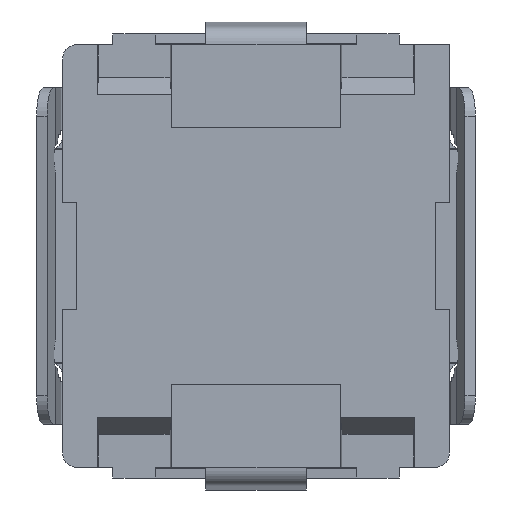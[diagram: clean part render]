
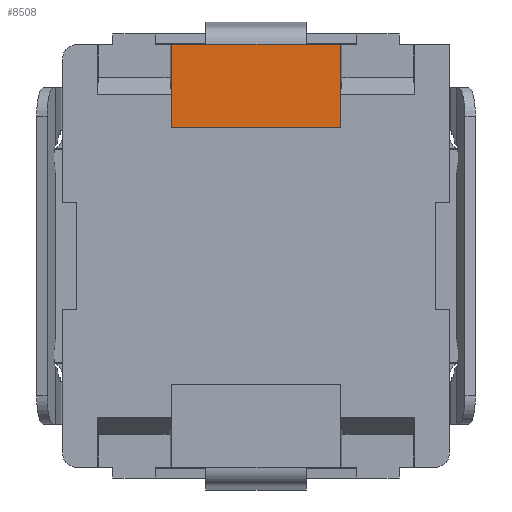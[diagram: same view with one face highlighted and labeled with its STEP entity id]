
A CAD part, front view. The second image highlights one B-rep face of the part: STEP entity #8508.
In plain terms, the highlighted planar face has unit normal (0, -1, 0).
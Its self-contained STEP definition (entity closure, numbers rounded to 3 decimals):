
#171 = AXIS2_PLACEMENT_3D ( 'NONE', #3939, #2547, #15122 ) ;
#451 = CARTESIAN_POINT ( 'NONE',  ( -0.7, 0.04, 1.93 ) ) ;
#761 = ORIENTED_EDGE ( 'NONE', *, *, #14885, .T. ) ;
#783 = DIRECTION ( 'NONE',  ( -1., 0., 0. ) ) ;
#787 = VECTOR ( 'NONE', #12499, 1000. ) ;
#790 = VECTOR ( 'NONE', #8552, 1000. ) ;
#874 = FACE_OUTER_BOUND ( 'NONE', #11216, .T. ) ;
#1019 = EDGE_CURVE ( 'NONE', #8538, #11699, #14668, .T. ) ;
#1038 = CARTESIAN_POINT ( 'NONE',  ( -5., 0.04, 2.95 ) ) ;
#1092 = DIRECTION ( 'NONE',  ( -1., 0., 0. ) ) ;
#1206 = LINE ( 'NONE', #16842, #790 ) ;
#1212 = DIRECTION ( 'NONE',  ( 0., 0., -1. ) ) ;
#1648 = LINE ( 'NONE', #14078, #15943 ) ;
#2039 = DIRECTION ( 'NONE',  ( 0., 0., -1. ) ) ;
#2073 = VERTEX_POINT ( 'NONE', #15034 ) ;
#2107 = CARTESIAN_POINT ( 'NONE',  ( -1.183, 0.04, 1.93 ) ) ;
#2547 = DIRECTION ( 'NONE',  ( 0., -1., 0. ) ) ;
#2553 = ORIENTED_EDGE ( 'NONE', *, *, #1019, .T. ) ;
#2585 = CARTESIAN_POINT ( 'NONE',  ( -1.183, 0.04, 2.95 ) ) ;
#2665 = CARTESIAN_POINT ( 'NONE',  ( -0.7, 0.04, 2.958 ) ) ;
#3001 = DIRECTION ( 'NONE',  ( 0., 0., 1. ) ) ;
#3127 = EDGE_CURVE ( 'NONE', #12924, #5524, #14680, .T. ) ;
#3185 = VERTEX_POINT ( 'NONE', #2585 ) ;
#3856 = ORIENTED_EDGE ( 'NONE', *, *, #7504, .T. ) ;
#3939 = CARTESIAN_POINT ( 'NONE',  ( -1., 0.04, 1.93 ) ) ;
#4106 = EDGE_CURVE ( 'NONE', #11699, #3185, #8016, .T. ) ;
#4135 = ORIENTED_EDGE ( 'NONE', *, *, #3127, .F. ) ;
#4714 = CARTESIAN_POINT ( 'NONE',  ( 1.183, 0.04, 2.277 ) ) ;
#4735 = ORIENTED_EDGE ( 'NONE', *, *, #15970, .T. ) ;
#5238 = CARTESIAN_POINT ( 'NONE',  ( -0.7, 0.04, 2.95 ) ) ;
#5281 = VERTEX_POINT ( 'NONE', #14218 ) ;
#5524 = VERTEX_POINT ( 'NONE', #14359 ) ;
#5896 = LINE ( 'NONE', #16820, #17357 ) ;
#7342 = VECTOR ( 'NONE', #7468, 1000. ) ;
#7468 = DIRECTION ( 'NONE',  ( 0., 0., -1. ) ) ;
#7504 = EDGE_CURVE ( 'NONE', #5281, #5524, #5896, .T. ) ;
#8016 = LINE ( 'NONE', #1038, #13636 ) ;
#8508 = ADVANCED_FACE ( 'NONE', ( #874 ), #9102, .T. ) ;
#8538 = VERTEX_POINT ( 'NONE', #2665 ) ;
#8552 = DIRECTION ( 'NONE',  ( 0., 0., 1. ) ) ;
#9102 = PLANE ( 'NONE',  #171 ) ;
#9270 = VECTOR ( 'NONE', #17281, 1000. ) ;
#9489 = VECTOR ( 'NONE', #1212, 1000. ) ;
#9654 = CARTESIAN_POINT ( 'NONE',  ( 0.7, 0.04, 1.93 ) ) ;
#9690 = ORIENTED_EDGE ( 'NONE', *, *, #13490, .T. ) ;
#9694 = CARTESIAN_POINT ( 'NONE',  ( 0.7, 0.04, 2.95 ) ) ;
#9925 = LINE ( 'NONE', #11812, #9270 ) ;
#10117 = CARTESIAN_POINT ( 'NONE',  ( 0.7, 0.04, 2.958 ) ) ;
#11154 = VERTEX_POINT ( 'NONE', #9694 ) ;
#11216 = EDGE_LOOP ( 'NONE', ( #12427, #761, #3856, #4135, #13959, #4735, #14537, #9690, #2553, #13718 ) ) ;
#11699 = VERTEX_POINT ( 'NONE', #5238 ) ;
#11812 = CARTESIAN_POINT ( 'NONE',  ( -1., 0.04, 2.958 ) ) ;
#11821 = EDGE_CURVE ( 'NONE', #11154, #16587, #17235, .T. ) ;
#11842 = CARTESIAN_POINT ( 'NONE',  ( -1.183, 0.04, 2.277 ) ) ;
#11884 = EDGE_CURVE ( 'NONE', #15455, #3185, #1648, .T. ) ;
#12427 = ORIENTED_EDGE ( 'NONE', *, *, #11884, .F. ) ;
#12499 = DIRECTION ( 'NONE',  ( 0., 0., 1. ) ) ;
#12924 = VERTEX_POINT ( 'NONE', #4714 ) ;
#13226 = CARTESIAN_POINT ( 'NONE',  ( -5., 0.04, 2.95 ) ) ;
#13465 = CARTESIAN_POINT ( 'NONE',  ( 1.183, 0.04, 3.188 ) ) ;
#13490 = EDGE_CURVE ( 'NONE', #16587, #8538, #9925, .T. ) ;
#13636 = VECTOR ( 'NONE', #1092, 1000. ) ;
#13718 = ORIENTED_EDGE ( 'NONE', *, *, #4106, .T. ) ;
#13725 = LINE ( 'NONE', #2107, #14358 ) ;
#13959 = ORIENTED_EDGE ( 'NONE', *, *, #17283, .T. ) ;
#14078 = CARTESIAN_POINT ( 'NONE',  ( -1.183, 0.04, 0. ) ) ;
#14218 = CARTESIAN_POINT ( 'NONE',  ( -1.183, 0.04, 1.8 ) ) ;
#14358 = VECTOR ( 'NONE', #2039, 1000. ) ;
#14359 = CARTESIAN_POINT ( 'NONE',  ( 1.183, 0.04, 1.8 ) ) ;
#14504 = VECTOR ( 'NONE', #783, 1000. ) ;
#14537 = ORIENTED_EDGE ( 'NONE', *, *, #11821, .T. ) ;
#14668 = LINE ( 'NONE', #451, #7342 ) ;
#14680 = LINE ( 'NONE', #13465, #9489 ) ;
#14721 = LINE ( 'NONE', #13226, #14504 ) ;
#14885 = EDGE_CURVE ( 'NONE', #15455, #5281, #13725, .T. ) ;
#15034 = CARTESIAN_POINT ( 'NONE',  ( 1.183, 0.04, 2.95 ) ) ;
#15122 = DIRECTION ( 'NONE',  ( 0., 0., -1. ) ) ;
#15357 = DIRECTION ( 'NONE',  ( 1., 0., 0. ) ) ;
#15455 = VERTEX_POINT ( 'NONE', #11842 ) ;
#15943 = VECTOR ( 'NONE', #3001, 1000. ) ;
#15970 = EDGE_CURVE ( 'NONE', #2073, #11154, #14721, .T. ) ;
#16587 = VERTEX_POINT ( 'NONE', #10117 ) ;
#16820 = CARTESIAN_POINT ( 'NONE',  ( 1.181, 0.04, 1.8 ) ) ;
#16842 = CARTESIAN_POINT ( 'NONE',  ( 1.183, 0.04, 1.93 ) ) ;
#17235 = LINE ( 'NONE', #9654, #787 ) ;
#17281 = DIRECTION ( 'NONE',  ( -1., 0., 0. ) ) ;
#17283 = EDGE_CURVE ( 'NONE', #12924, #2073, #1206, .T. ) ;
#17357 = VECTOR ( 'NONE', #15357, 1000. ) ;
